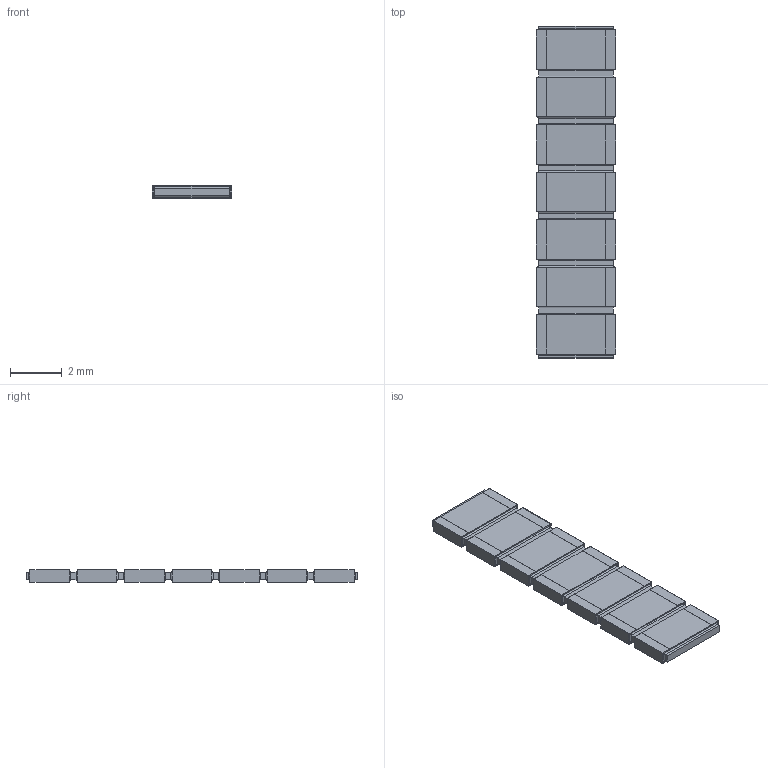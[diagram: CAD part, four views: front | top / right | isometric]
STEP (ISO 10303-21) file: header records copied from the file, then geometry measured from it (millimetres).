
FILE_DESCRIPTION(/* description */ (''),/* implementation_level */ '2;1');
FILE_NAME(/* name */ 'S:\DOCUMENT\AUTOCAD\3D_Modèles\10_3D-pour-VISHAY-COM\PRA\PRA182\PRA182-I2_à_I8\10_IGES\PRA182I7_B-or-N-or-G.stp',/* time_stamp */ '2017-12-18T15:19:21+01:00',/* author */ ('dparmentier'),/* organization */ ('unknown'),/* preprocessor_version */ 'ST-DEVELOPER v17',/* originating_system */ 'Autodesk Inventor 2018',/* authorisation */ '');
FILE_SCHEMA (('AUTOMOTIVE_DESIGN { 1 0 10303 214 3 1 1 }'));
Length unit declared in the file: millimetre
Products named in the file (1): PRA182I7_B-or-N-or-G
Bounding box: 3.06 x 12.78 x 0.5 mm (x, y, z)
Volume: 17.9 mm3; surface area: 153.1 mm2
Topology: 15 solids, 15 shells, 272 faces, 628 edges, 400 vertices
Faces by surface type: plane 216, cylinder 56
Entity records: 7559 total; most frequent: CARTESIAN_POINT 1301, ORIENTED_EDGE 1256, DIRECTION 1230, EDGE_CURVE 628, LINE 572, VECTOR 572, VERTEX_POINT 400, AXIS2_PLACEMENT_3D 329
